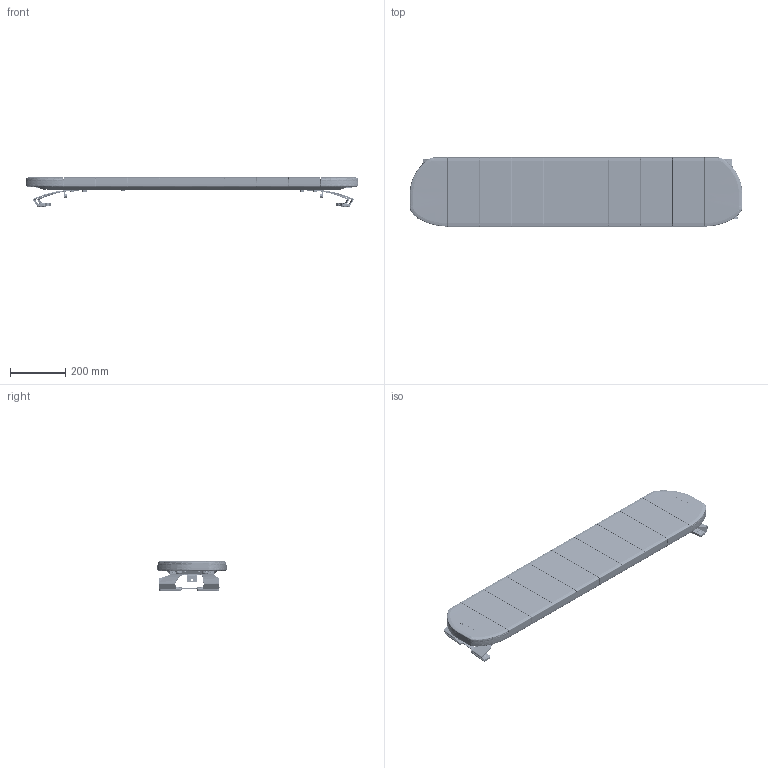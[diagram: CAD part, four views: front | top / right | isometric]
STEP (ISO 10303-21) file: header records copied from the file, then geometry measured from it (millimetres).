
FILE_DESCRIPTION(/* description */ (''),/* implementation_level */ '2;1');
FILE_NAME(/* name */ 'sky-air_stp.stp',/* time_stamp */ '2021-02-08T13:15:46+08:00',/* author */ (''),/* organization */ (''),/* preprocessor_version */ 'ST-DEVELOPER v15',/* originating_system */ 'SIEMENS PLM Software NX 8.5',/* authorisation */ '');
FILE_SCHEMA (('AP203_CONFIGURATION_CONTROLLED_3D_DESIGN_OF_MECHANICAL_PARTS_AND_ASSEMBLIES_MIM_LF { 1 0 10303 403 2 1 2}'));
Products named in the file (1): Admi2964A7C66zpc
Bounding box: 1200 x 250 x 107.37 mm (x, y, z)
Volume: 4393390.8 mm3; surface area: 3010401.5 mm2
Topology: 303 solids, 303 shells, 33098 faces, 91550 edges, 60348 vertices
Faces by surface type: plane 21059, cylinder 8830, bspline 1608, cone 770, torus 498, sphere 214, extrusion 119
Entity records: 1250937 total; most frequent: CARTESIAN_POINT 398764, ORIENTED_EDGE 183056, DIRECTION 171004, EDGE_CURVE 91528, VECTOR 64660, LINE 64541, VERTEX_POINT 60348, AXIS2_PLACEMENT_3D 53172
